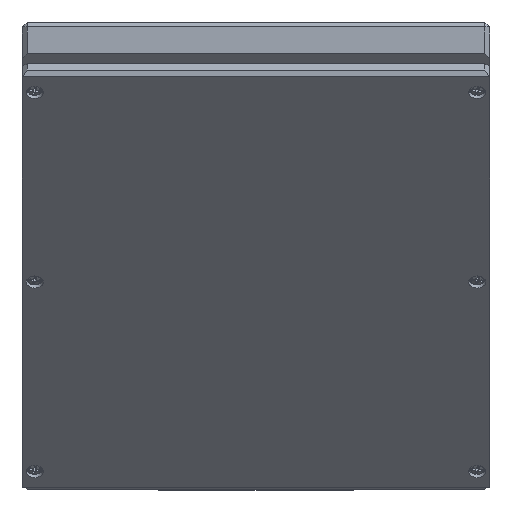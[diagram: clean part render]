
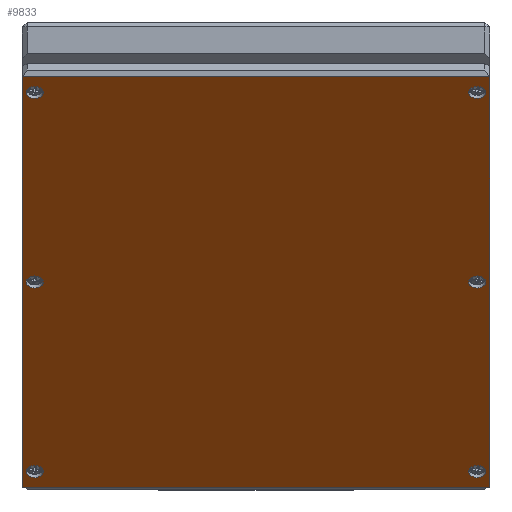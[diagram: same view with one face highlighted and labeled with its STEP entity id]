
A CAD part, top view. The second image highlights one B-rep face of the part: STEP entity #9833.
In plain terms, the highlighted planar face has unit normal (0, -0.707, 0.707).
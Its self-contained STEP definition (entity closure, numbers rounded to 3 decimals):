
#156 = EDGE_LOOP ( 'NONE', ( #12268 ) ) ;
#335 = VERTEX_POINT ( 'NONE', #8820 ) ;
#397 = AXIS2_PLACEMENT_3D ( 'NONE', #8629, #8801, #8540 ) ;
#449 = CIRCLE ( 'NONE', #4073, 1.75 ) ;
#471 = EDGE_CURVE ( 'NONE', #6405, #6405, #5852, .T. ) ;
#857 = ORIENTED_EDGE ( 'NONE', *, *, #2661, .F. ) ;
#926 = VERTEX_POINT ( 'NONE', #10335 ) ;
#942 = CARTESIAN_POINT ( 'NONE',  ( 0., -5.374, 204.174 ) ) ;
#952 = AXIS2_PLACEMENT_3D ( 'NONE', #12322, #10114, #11788 ) ;
#1065 = DIRECTION ( 'NONE',  ( 0., -0.707, 0.707 ) ) ;
#1103 = EDGE_CURVE ( 'NONE', #6193, #6193, #3242, .T. ) ;
#1128 = PLANE ( 'NONE',  #3018 ) ;
#1539 = EDGE_CURVE ( 'NONE', #335, #10507, #1799, .T. ) ;
#1619 = EDGE_LOOP ( 'NONE', ( #6223 ) ) ;
#1799 = LINE ( 'NONE', #3772, #1949 ) ;
#1949 = VECTOR ( 'NONE', #3790, 1000. ) ;
#2358 = ORIENTED_EDGE ( 'NONE', *, *, #1539, .T. ) ;
#2450 = DIRECTION ( 'NONE',  ( 1., 0., 0. ) ) ;
#2607 = CIRCLE ( 'NONE', #952, 1.75 ) ;
#2661 = EDGE_CURVE ( 'NONE', #5580, #5580, #449, .T. ) ;
#3018 = AXIS2_PLACEMENT_3D ( 'NONE', #942, #1065, #2450 ) ;
#3029 = EDGE_CURVE ( 'NONE', #335, #6792, #7984, .T. ) ;
#3242 = CIRCLE ( 'NONE', #10715, 1.75 ) ;
#3389 = EDGE_CURVE ( 'NONE', #5327, #5327, #11198, .T. ) ;
#3772 = CARTESIAN_POINT ( 'NONE',  ( 47., -47.447, 162.101 ) ) ;
#3790 = DIRECTION ( 'NONE',  ( 1., 0., 0. ) ) ;
#3989 = CARTESIAN_POINT ( 'NONE',  ( -45.5, -5.374, 204.174 ) ) ;
#4042 = DIRECTION ( 'NONE',  ( 1., 0., 0. ) ) ;
#4073 = AXIS2_PLACEMENT_3D ( 'NONE', #11227, #6271, #11136 ) ;
#4281 = VERTEX_POINT ( 'NONE', #11209 ) ;
#4442 = EDGE_CURVE ( 'NONE', #5034, #5034, #12402, .T. ) ;
#4611 = CARTESIAN_POINT ( 'NONE',  ( -48., 36.699, 246.247 ) ) ;
#4736 = EDGE_LOOP ( 'NONE', ( #9186, #2358, #6439, #11753 ) ) ;
#5034 = VERTEX_POINT ( 'NONE', #11705 ) ;
#5083 = EDGE_LOOP ( 'NONE', ( #10108 ) ) ;
#5327 = VERTEX_POINT ( 'NONE', #11886 ) ;
#5434 = EDGE_CURVE ( 'NONE', #926, #10507, #10727, .T. ) ;
#5580 = VERTEX_POINT ( 'NONE', #12079 ) ;
#5835 = DIRECTION ( 'NONE',  ( 0., 0.707, 0.707 ) ) ;
#5852 = CIRCLE ( 'NONE', #397, 1.75 ) ;
#5876 = CARTESIAN_POINT ( 'NONE',  ( 45.5, -44.265, 165.283 ) ) ;
#5917 = DIRECTION ( 'NONE',  ( 0., -0.707, 0.707 ) ) ;
#5955 = DIRECTION ( 'NONE',  ( 1., 0., 0. ) ) ;
#5973 = AXIS2_PLACEMENT_3D ( 'NONE', #3989, #11460, #4042 ) ;
#6193 = VERTEX_POINT ( 'NONE', #12467 ) ;
#6223 = ORIENTED_EDGE ( 'NONE', *, *, #1103, .F. ) ;
#6271 = DIRECTION ( 'NONE',  ( 0., -0.707, 0.707 ) ) ;
#6405 = VERTEX_POINT ( 'NONE', #12663 ) ;
#6412 = CARTESIAN_POINT ( 'NONE',  ( -48., -48.154, 161.394 ) ) ;
#6439 = ORIENTED_EDGE ( 'NONE', *, *, #5434, .F. ) ;
#6792 = VERTEX_POINT ( 'NONE', #4611 ) ;
#7147 = CARTESIAN_POINT ( 'NONE',  ( -45.5, -44.265, 165.283 ) ) ;
#7151 = DIRECTION ( 'NONE',  ( 0., -0.707, 0.707 ) ) ;
#7173 = DIRECTION ( 'NONE',  ( 1., 0., 0. ) ) ;
#7984 = LINE ( 'NONE', #6412, #11320 ) ;
#8132 = CARTESIAN_POINT ( 'NONE',  ( -47., 36.699, 246.247 ) ) ;
#8281 = EDGE_LOOP ( 'NONE', ( #857 ) ) ;
#8354 = AXIS2_PLACEMENT_3D ( 'NONE', #5876, #5917, #5955 ) ;
#8437 = ORIENTED_EDGE ( 'NONE', *, *, #8490, .F. ) ;
#8490 = EDGE_CURVE ( 'NONE', #4281, #4281, #2607, .T. ) ;
#8540 = DIRECTION ( 'NONE',  ( 1., 0., 0. ) ) ;
#8629 = CARTESIAN_POINT ( 'NONE',  ( 45.5, 33.517, 243.065 ) ) ;
#8801 = DIRECTION ( 'NONE',  ( 0., -0.707, 0.707 ) ) ;
#8820 = CARTESIAN_POINT ( 'NONE',  ( -48., -47.447, 162.101 ) ) ;
#8945 = DIRECTION ( 'NONE',  ( -1., 0., 0. ) ) ;
#9186 = ORIENTED_EDGE ( 'NONE', *, *, #3029, .F. ) ;
#9343 = EDGE_CURVE ( 'NONE', #926, #6792, #13024, .T. ) ;
#9833 = ADVANCED_FACE ( 'NONE', ( #11436, #11493, #11637, #11426, #11415, #11335, #11319 ), #1128, .T. ) ;
#10108 = ORIENTED_EDGE ( 'NONE', *, *, #471, .F. ) ;
#10114 = DIRECTION ( 'NONE',  ( 0., -0.707, 0.707 ) ) ;
#10335 = CARTESIAN_POINT ( 'NONE',  ( 48., 36.699, 246.247 ) ) ;
#10507 = VERTEX_POINT ( 'NONE', #12042 ) ;
#10715 = AXIS2_PLACEMENT_3D ( 'NONE', #7147, #7151, #7173 ) ;
#10727 = LINE ( 'NONE', #11201, #10760 ) ;
#10760 = VECTOR ( 'NONE', #11151, 1000. ) ;
#10797 = EDGE_LOOP ( 'NONE', ( #13113 ) ) ;
#11136 = DIRECTION ( 'NONE',  ( 1., 0., 0. ) ) ;
#11151 = DIRECTION ( 'NONE',  ( 0., -0.707, -0.707 ) ) ;
#11198 = CIRCLE ( 'NONE', #5973, 1.75 ) ;
#11201 = CARTESIAN_POINT ( 'NONE',  ( 48., -48.154, 161.394 ) ) ;
#11209 = CARTESIAN_POINT ( 'NONE',  ( -43.75, 33.517, 243.065 ) ) ;
#11227 = CARTESIAN_POINT ( 'NONE',  ( 45.5, -5.374, 204.174 ) ) ;
#11319 = FACE_OUTER_BOUND ( 'NONE', #4736, .T. ) ;
#11320 = VECTOR ( 'NONE', #5835, 1000. ) ;
#11335 = FACE_BOUND ( 'NONE', #12830, .T. ) ;
#11415 = FACE_BOUND ( 'NONE', #5083, .T. ) ;
#11426 = FACE_BOUND ( 'NONE', #10797, .T. ) ;
#11436 = FACE_BOUND ( 'NONE', #156, .T. ) ;
#11460 = DIRECTION ( 'NONE',  ( 0., -0.707, 0.707 ) ) ;
#11493 = FACE_BOUND ( 'NONE', #1619, .T. ) ;
#11637 = FACE_BOUND ( 'NONE', #8281, .T. ) ;
#11705 = CARTESIAN_POINT ( 'NONE',  ( 47.25, -44.265, 165.283 ) ) ;
#11753 = ORIENTED_EDGE ( 'NONE', *, *, #9343, .T. ) ;
#11788 = DIRECTION ( 'NONE',  ( 1., 0., 0. ) ) ;
#11886 = CARTESIAN_POINT ( 'NONE',  ( -43.75, -5.374, 204.174 ) ) ;
#12042 = CARTESIAN_POINT ( 'NONE',  ( 48., -47.447, 162.101 ) ) ;
#12079 = CARTESIAN_POINT ( 'NONE',  ( 47.25, -5.374, 204.174 ) ) ;
#12268 = ORIENTED_EDGE ( 'NONE', *, *, #4442, .F. ) ;
#12322 = CARTESIAN_POINT ( 'NONE',  ( -45.5, 33.517, 243.065 ) ) ;
#12402 = CIRCLE ( 'NONE', #8354, 1.75 ) ;
#12467 = CARTESIAN_POINT ( 'NONE',  ( -43.75, -44.265, 165.283 ) ) ;
#12663 = CARTESIAN_POINT ( 'NONE',  ( 47.25, 33.517, 243.065 ) ) ;
#12830 = EDGE_LOOP ( 'NONE', ( #8437 ) ) ;
#13000 = VECTOR ( 'NONE', #8945, 1000. ) ;
#13024 = LINE ( 'NONE', #8132, #13000 ) ;
#13113 = ORIENTED_EDGE ( 'NONE', *, *, #3389, .F. ) ;
